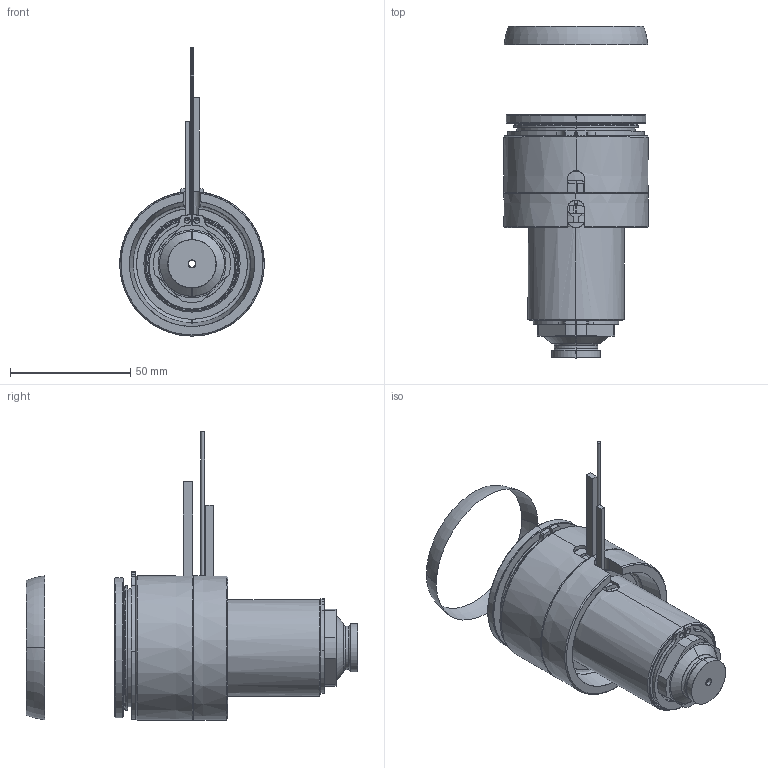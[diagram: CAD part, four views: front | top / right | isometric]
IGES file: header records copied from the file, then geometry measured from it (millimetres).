
Start section: SolidWorks IGES file using analytic representation for surfaces
Global section: file name: C:\Documents and Settings\ws-20\Desktop\TEM\UGER6602-S-A-0 [Øb-2.9 P-0 ØC-16].IGS; native system: SolidWorks 2012; preprocessor: SolidWorks 2012; author: ws-20; date: 120417.123309; units: millimetre
Bounding box: 60 x 137.77 x 119.65 mm (x, y, z)
Surface area: 59983.2 mm2 (no closed solid volume)
Topology: 0 solids, 0 shells, 169 faces, 3382 edges, 3382 vertices
Faces by surface type: revolution 102, bspline 67
